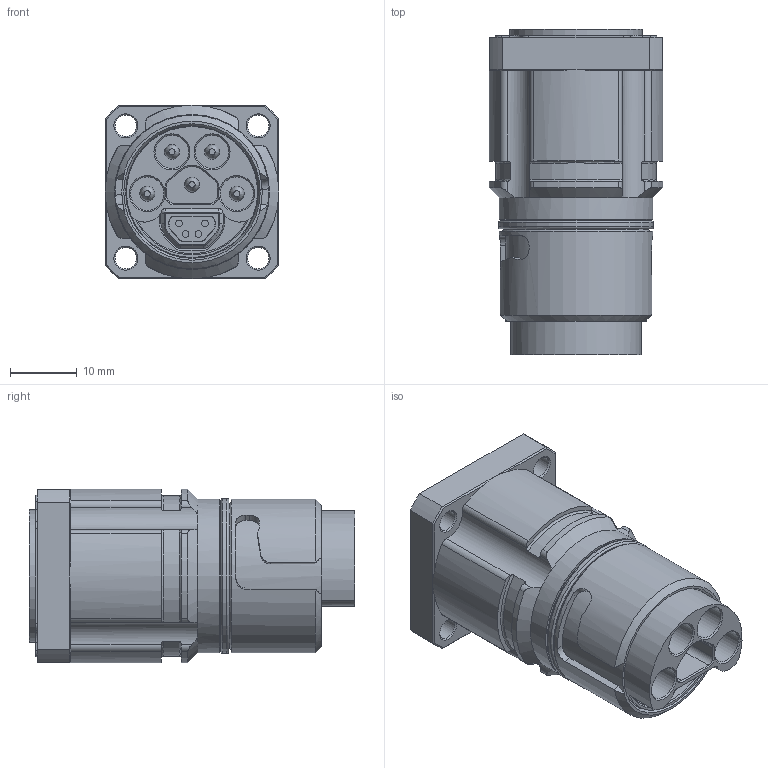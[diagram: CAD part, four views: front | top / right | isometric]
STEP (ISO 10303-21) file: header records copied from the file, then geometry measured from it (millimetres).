
FILE_DESCRIPTION(/* description */ (''),/* implementation_level */ '2;1');
FILE_NAME(/* name */ 'X:\0-inventor\0-3d-Teile\PC-Compo\solids\EtherCAT-P_Stecker_Buchsen\0-Ausgabe\B23 ENP und ECP_T0509\B23_Flansche\ENP\Vierkantflansch lang\5pol\ENP_VK1_5pol_Pst_Step.stp',/* time_stamp */ '2019-05-21T16:36:31+02:00',/* author */ ('christiankreuzer'),/* organization */ ('Design-AG'),/* preprocessor_version */ 'ST-DEVELOPER v17.2',/* originating_system */ 'Autodesk Inventor 2019',/* authorisation */ '');
FILE_SCHEMA (('AUTOMOTIVE_DESIGN { 1 0 10303 214 3 1 1 }'));
Length unit declared in the file: millimetre
Products named in the file (1): ENP_VK1_5pol_Pst_Step
Bounding box: 26 x 48.75 x 26 mm (x, y, z)
Volume: 17498.6 mm3; surface area: 12992.7 mm2
Topology: 13 solids, 13 shells, 387 faces, 989 edges, 638 vertices
Faces by surface type: plane 184, cylinder 133, cone 47, torus 14, bspline 9
Full cylindrical faces by diameter (mm): 1 x4, 2.25 x5, 3.2 x4, 5 x4, 18.2 x1, 19.6 x1, 19.8 x1, 19.85 x1, 20.5 x1, 21.7 x2, 23 x2, 23.2 x1
Entity records: 12861 total; most frequent: CARTESIAN_POINT 2751, DIRECTION 2104, ORIENTED_EDGE 1974, EDGE_CURVE 987, AXIS2_PLACEMENT_3D 812, VERTEX_POINT 638, LINE 480, VECTOR 480
